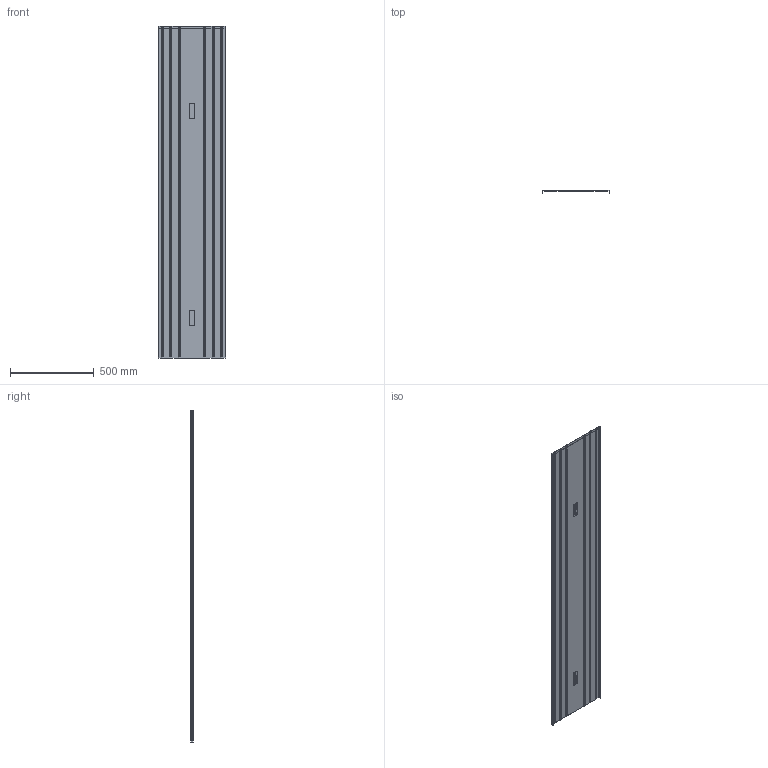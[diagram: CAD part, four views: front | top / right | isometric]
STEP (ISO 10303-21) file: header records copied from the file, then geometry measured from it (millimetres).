
FILE_DESCRIPTION (( 'STEP AP203' ), '1' );
FILE_NAME ('Tapa TERE 400-600 400.step', '2023-07-27T19:00:07', ( '' ), ( '' ), 'SwSTEP 2.0', 'SolidWorks 2022', '' );
FILE_SCHEMA (( 'CONFIG_CONTROL_DESIGN' ));
Length unit declared in the file: millimetre
Products named in the file (1): Tapa TERE 400-600 400
Bounding box: 402 x 15.5 x 1978 mm (x, y, z)
Volume: 609886.8 mm3; surface area: 1730784.5 mm2
Topology: 12 solids, 12 shells, 548 faces, 1665 edges, 1143 vertices
Faces by surface type: plane 295, cylinder 138, bspline 99, torus 16
Entity records: 24517 total; most frequent: CARTESIAN_POINT 9836, ORIENTED_EDGE 3326, DIRECTION 2709, EDGE_CURVE 1663, VERTEX_POINT 1143, LINE 943, VECTOR 943, AXIS2_PLACEMENT_3D 883
